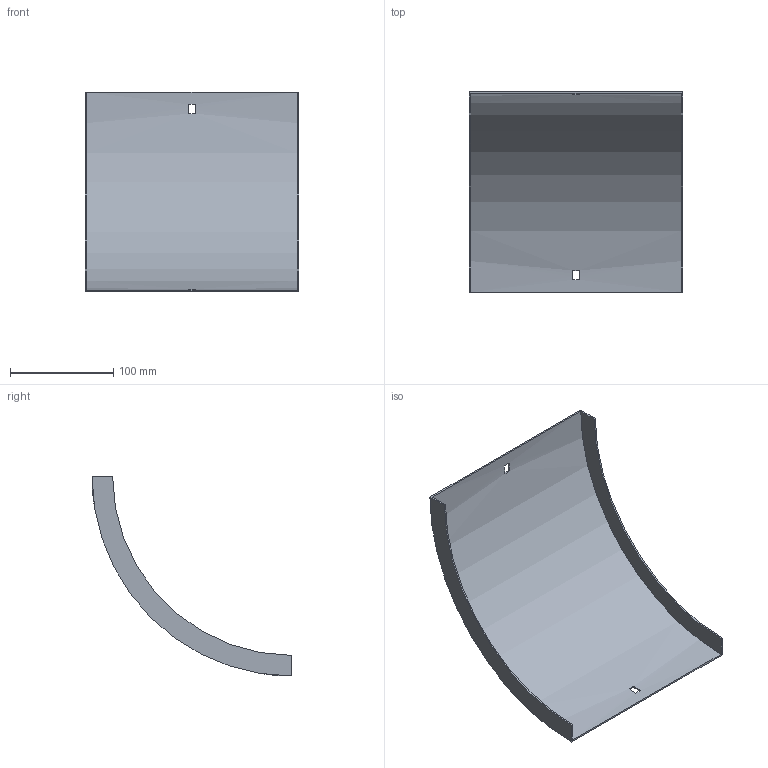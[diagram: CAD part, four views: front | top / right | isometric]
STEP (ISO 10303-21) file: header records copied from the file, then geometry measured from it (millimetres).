
FILE_DESCRIPTION (( 'STEP AP214' ), '1' );
FILE_NAME ('33N1I200.step', '2025-02-21T09:19:34', ( '' ), ( '' ), 'SwSTEP 2.0', 'SolidWorks 2023', '' );
FILE_SCHEMA (( 'AUTOMOTIVE_DESIGN' ));
Length unit declared in the file: millimetre
Products named in the file (1): 33N1I200
Bounding box: 207 x 194 x 194 mm (x, y, z)
Volume: 110053.7 mm3; surface area: 148387.1 mm2
Topology: 1 solids, 1 shells, 18 faces, 48 edges, 32 vertices
Faces by surface type: plane 14, cylinder 4
Entity records: 599 total; most frequent: DIRECTION 102, CARTESIAN_POINT 99, ORIENTED_EDGE 96, EDGE_CURVE 48, AXIS2_PLACEMENT_3D 35, LINE 32, VERTEX_POINT 32, VECTOR 32
